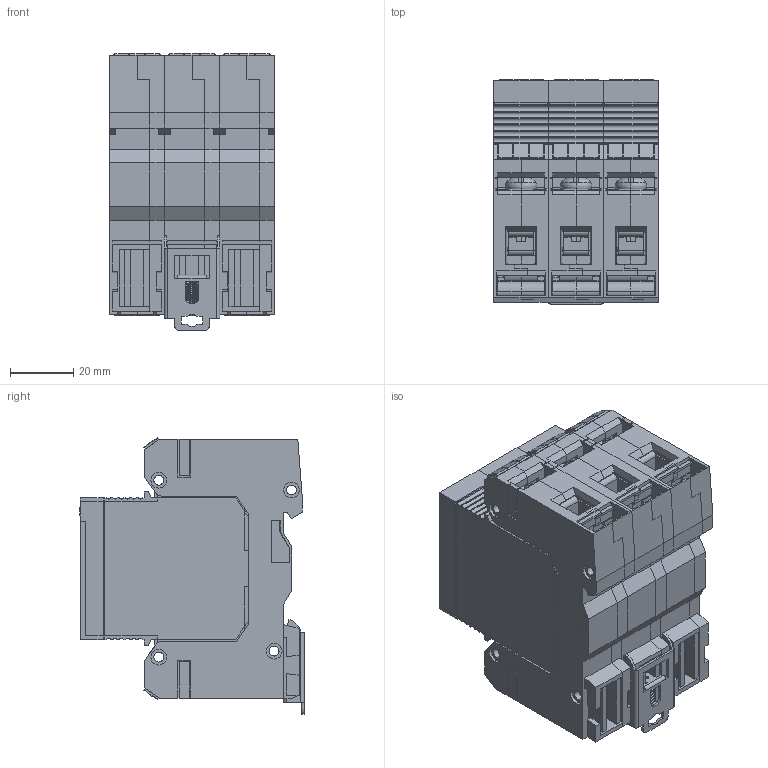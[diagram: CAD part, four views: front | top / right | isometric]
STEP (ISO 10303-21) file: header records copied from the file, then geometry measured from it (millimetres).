
FILE_DESCRIPTION (( 'STEP AP214' ), '1' );
FILE_NAME ('OptiIDn OM 3 瀁錌黟.STEP', '2022-12-05T08:19:27', ( '' ), ( '' ), 'SwSTEP 2.0', 'SolidWorks 2018', '' );
FILE_SCHEMA (( 'AUTOMOTIVE_DESIGN' ));
Length unit declared in the file: millimetre
Products named in the file (23): Îñíîâàíèå ìîäóëÿ Ë 50-094(ïóñòîé ñ èçìåíåíûì ãàáàðèòîì)_„«ï ç¥àâ¥¦ ; OptiIDn OM 3 瀁錌黟; Çàãëóøêà ìîäóëÿ Ï 50-083; Çàùåëêà 11-010; Îñíîâàíèå ìîäóëÿ Ï 50-095 ïóñòîé; Ñüåìíûé ìîäóëü 01 ïóñòîé; Êîäèðîâî÷íàÿ âñòàâêà; ﾂ鏆鮏 01; Ìåòêà 21-086; Çàãëóøêà ìîäóëÿ Ë 50-084; 署赅 01 矬耱铋; Âûâîä 53-027 îáðåçàíûé äëÿ ñàéòà; 砑僔蠂縺 52-040_K3; Ïåðåìû÷êà 03-026; Êîëîäêà 03-039 ïîä íîâûé ãàáàðèòû; Âñòàâêà êîäèðîâî÷íàÿ 50-082; Ïðóæèíà çàùåëêè 13-007; 鎔艜 03-024; 扻豵鵨 01 瀀嚦鍣
Assembly tree (51 placements, depth 3):
  OptiIDn OM 3 瀁錌黟
    Îñíîâàíèå ìîäóëÿ Ë 50-094(ïóñòîé ñ èçìåíåíûì ãàáàðèòîì)_„«ï ç¥àâ¥¦ 
    Îñíîâàíèå ìîäóëÿ Ï 50-095 ïóñòîé
    Âûâîä 53-027 îáðåçàíûé äëÿ ñàéòà  x6
    Çàãëóøêà ìîäóëÿ Ë 50-084  x3
    Êîëîäêà 03-039 ïîä íîâûé ãàáàðèòû  x6
    Âñòàâêà êîäèðîâî÷íàÿ 50-082  x3
    鎔艜 03-024  x6
    砑僔蠂縺 52-040_K3
    Ìåòêà 21-086  x6
    Ñüåìíûé ìîäóëü 01 ïóñòîé  x3
      扻豵鵨 01 瀀嚦鍣
      署赅 01 矬耱铋
      Êîäèðîâî÷íàÿ âñòàâêà
      ﾂ鏆鮏 01
      Ìåòêà 21-086
    Îñíîâàíèå ìîäóëÿ Ï 50-095 ïóñòîé
    Îñíîâàíèå ìîäóëÿ Ï 50-095 ïóñòîé
    Îñíîâàíèå ìîäóëÿ Ë 50-094(ïóñòîé ñ èçìåíåíûì ãàáàðèòîì)_„«ï ç¥àâ¥¦ 
    Îñíîâàíèå ìîäóëÿ Ë 50-094(ïóñòîé ñ èçìåíåíûì ãàáàðèòîì)_„«ï ç¥àâ¥¦ 
    Çàãëóøêà ìîäóëÿ Ï 50-083  x2
    Ïðóæèíà çàùåëêè 13-007
    Çàùåëêà 11-010
    Ïåðåìû÷êà 03-026
Bounding box: 52.4 x 70.98 x 87.56 mm (x, y, z)
Volume: 86170.1 mm3; surface area: 155967.5 mm2
Topology: 60 solids, 60 shells, 6113 faces, 17055 edges, 11113 vertices
Faces by surface type: plane 4977, cylinder 1090, torus 24, bspline 20, cone 2
Entity records: 105502 total; most frequent: CARTESIAN_POINT 20772, ORIENTED_EDGE 18044, DIRECTION 16443, EDGE_CURVE 9022, LINE 7915, VECTOR 7915, VERTEX_POINT 5923, AXIS2_PLACEMENT_3D 4264
